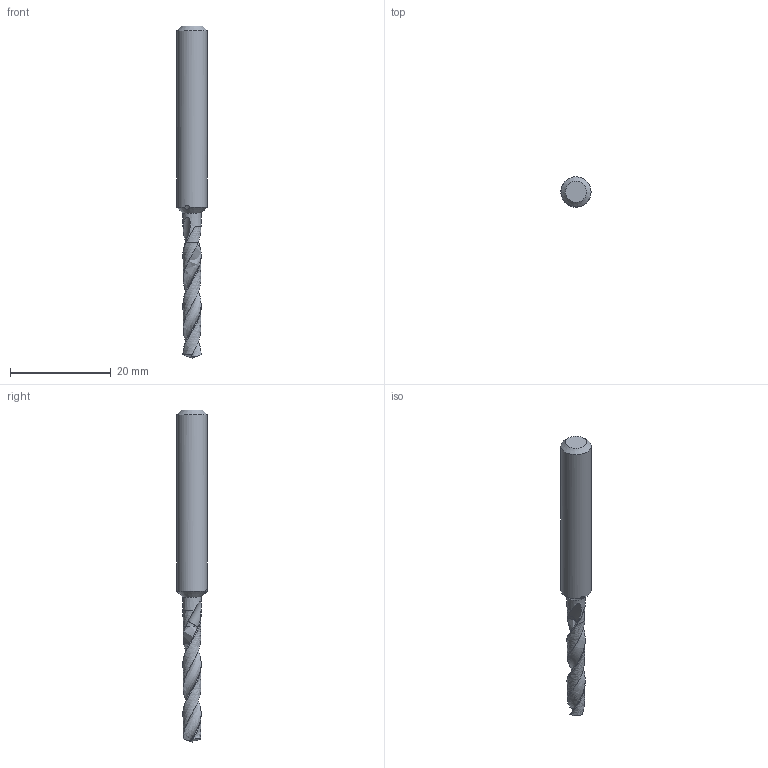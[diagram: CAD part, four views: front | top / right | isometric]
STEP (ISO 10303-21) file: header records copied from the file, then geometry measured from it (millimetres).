
FILE_DESCRIPTION(/* description */ (''),/* implementation_level */ '2;1');
FILE_NAME(/* name */ 'PLM~180329165804~TIX~0160~7462069~MOD~TM02_00~DC150-05-03.650A0-WJ30TA_ISO~FR.STP',/* time_stamp */ '2018-03-29T17:16:11+02:00',/* author */ ('VR - J.Pauli'),/* organization */ ('Walter AG'),/* preprocessor_version */ 'ST-DEVELOPER v15',/* originating_system */ 'SIEMENS PLM Software NX 8.5',/* authorisation */ '');
FILE_SCHEMA (('AUTOMOTIVE_DESIGN { 1 0 10303 214 3 1 1 1 }'));
Length unit declared in the file: millimetre
Products named in the file (1): PLM~180329165804~TIX~0160~7462069~MOD~TM02_00~DC150-05-03.650A0-WJ30T
A_ISO~FR
Bounding box: 6 x 6 x 66 mm (x, y, z)
Volume: 1204.5 mm3; surface area: 1069.8 mm2
Topology: 2 solids, 2 shells, 26 faces, 69 edges, 49 vertices
Faces by surface type: bspline 8, cylinder 7, cone 6, plane 5
Full cylindrical faces by diameter (mm): 6 x1
Entity records: 13626 total; most frequent: CARTESIAN_POINT 13044, ORIENTED_EDGE 114, DIRECTION 85, EDGE_CURVE 57, AXIS2_PLACEMENT_3D 41, VERTEX_POINT 40, B_SPLINE_CURVE_WITH_KNOTS 38, EDGE_LOOP 30
